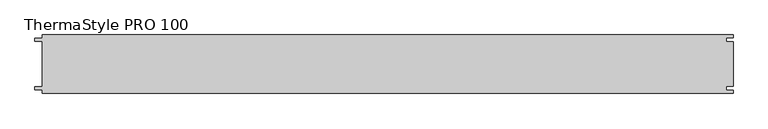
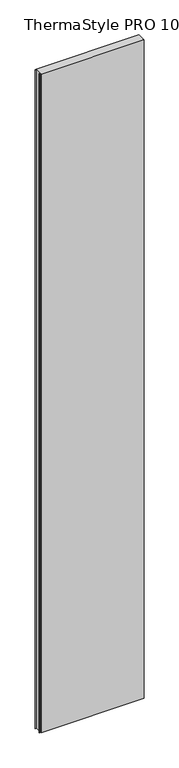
"""IFC4 building model written with IfcOpenShell, lengths in millimetres: plate geometry, Europanels_ThermaStyle PRO_Vt : ThermaStyle PRO 100."""

from ifc_helpers import new_model, si_unit, origin, origin_with_axes, place, context, project, spatial, polyline, outline, extrude, source, transform, mapped, element, save


def thermastyle_pro_100_ce6bf896(model_context):
    return source(origin(), model_context, "Body", "SweptSolid", [
        extrude(outline(polyline([(-594.0, -50.0), (-594.0, -44.0), (-606.9631544, -44.0), (-606.9631544, -38.8855682), (-594.0, -38.8855682), (-594.0, 38.8855682), (-606.9631544, 38.8855682), (-606.9631544, 44.0), (-594.0, 44.0), (-594.0, 50.0), (594.0, 50.0), (594.0, 45.0), (582.0447029, 45.0), (582.0447029, 37.8855682), (594.0, 37.8855682), (594.0, -37.8855682), (582.0447029, -37.8855682), (582.0447029, -45.0), (594.0, -45.0), (594.0, -50.0), (-594.0, -50.0)])), origin_with_axes(), (0.0, 0.0, 1.0), 8000.0),
    ])


if __name__ == "__main__":
    model = new_model("IFC4")
    model_context = context("Model", 3, world=origin())
    ifc_project = project(units=[si_unit("LENGTHUNIT", "METRE", prefix="MILLI")], contexts=[model_context])
    site = spatial("IfcSite", under=ifc_project)
    building = spatial("IfcBuilding", under=site)
    placement = place(None, origin())
    thermastyle_pro_100_shape = thermastyle_pro_100_ce6bf896(model_context)
    element("IfcPlate", 1, ObjectType="Europanels_ThermaStyle PRO_Vt : ThermaStyle PRO 100", at=placement, inside=building, context=model_context, shape_type="MappedRepresentation", body=[
        mapped(thermastyle_pro_100_shape, transform((0.0, 0.0, 0.0), x_axis=(1.0, 0.0, 0.0), y_axis=(0.0, 1.0, 0.0), z_axis=(0.0, 0.0, 1.0))),
    ])
    save(model, "model.ifc")
